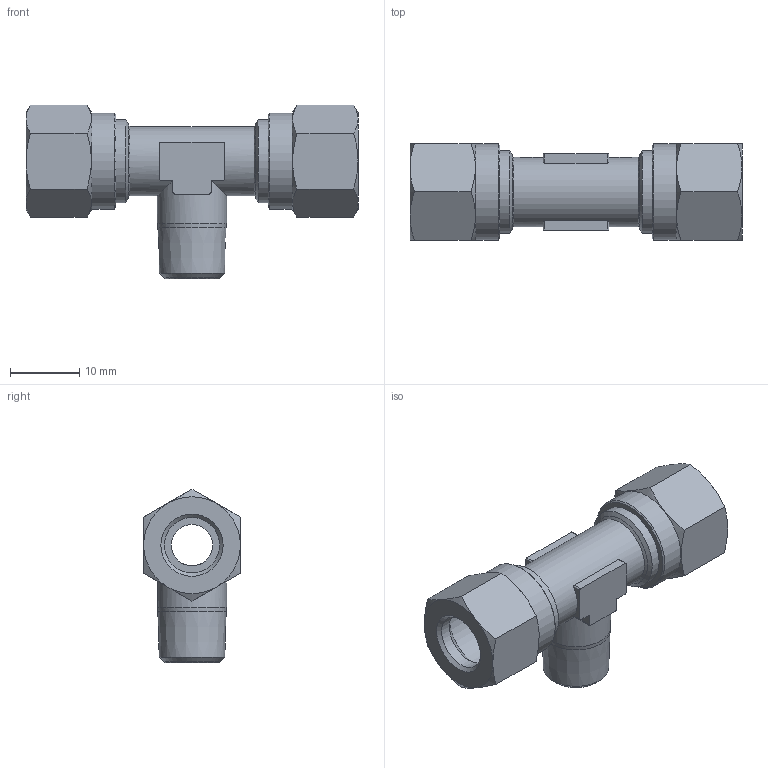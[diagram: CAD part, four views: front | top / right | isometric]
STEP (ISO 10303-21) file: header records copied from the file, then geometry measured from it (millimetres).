
FILE_DESCRIPTION(('Bauteilbeschreibung','HiCAD-Model','HiCAD-STEP-TRANSLATION','Bauteilbeschreibung'),'2;1');
FILE_NAME('B:/ABGLEICH/ZEICHNUNGEN/STEP FÜR INTERNET/STEP/207/92204_207_8_1-8.STP','2011-10-18T08:26:56+00:00',('Konstrukteur'),('Konstrukteur Firma GmbH'),' HiCAD neXt 2008, Step 3.1.1401.2J ','HiCAD neXt 2008','confidential');
FILE_SCHEMA(('AUTOMOTIVE_DESIGN { 1 2 10303 214 0 1 1 1 }'));
Length unit declared in the file: millimetre
Products named in the file (12): A2204_207_8_1_8; A6803; A68030; DIN 13_M12X1; A68031; A68032; DIN0130M12X1; A2203; A22030; R 1_8; DIN0130M12X10; DIN0130M12X11
Assembly tree (11 placements, depth 3):
  A2204_207_8_1_8
    A6803
    A68030
      DIN 13_M12X1
    A68031
    A68032
      DIN0130M12X1
    A2203
    A22030
      R 1_8
      DIN0130M12X10
      DIN0130M12X11
Bounding box: 48 x 14 x 25.08 mm (x, y, z)
Volume: 4491.8 mm3; surface area: 7820.9 mm2
Topology: 8 solids, 8 shells, 123 faces, 295 edges, 187 vertices
Faces by surface type: plane 47, cone 38, cylinder 38
Full cylindrical faces by diameter (mm): 6 x2, 8 x4, 10 x2, 10.773 x6, 12 x6, 13.9 x2
Entity records: 7253 total; most frequent: CARTESIAN_POINT 3399, DIRECTION 560, ORIENTED_EDGE 452, AXIS2_PLACEMENT_3D 245, EDGE_CURVE 226, COLOUR_RGB 214, PRESENTATION_STYLE_ASSIGNMENT 214, CURVE_STYLE 206
